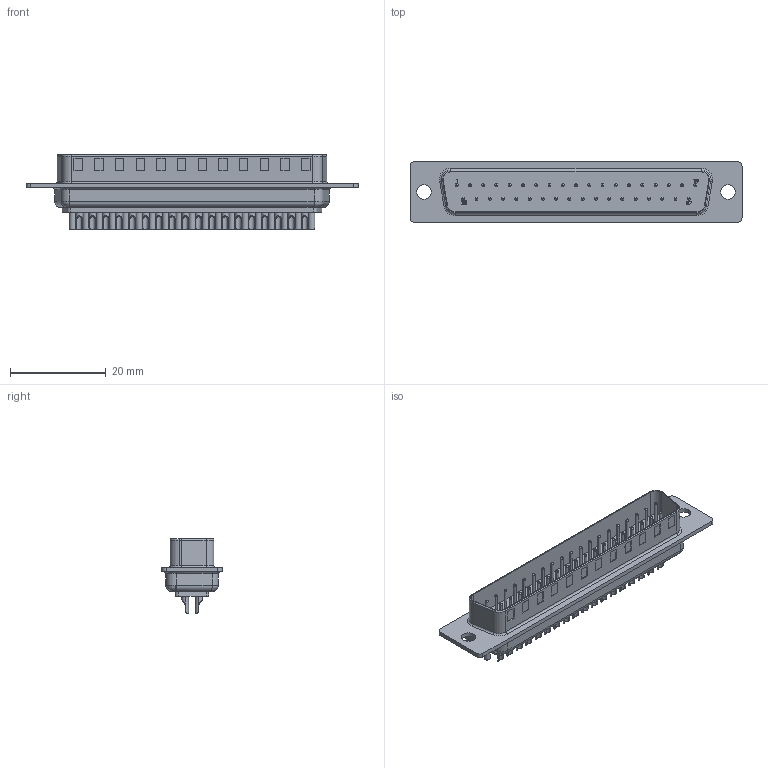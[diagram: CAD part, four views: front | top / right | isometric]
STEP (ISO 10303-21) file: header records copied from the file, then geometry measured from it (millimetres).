
FILE_DESCRIPTION(('FreeCAD Model'),'2;1');
FILE_NAME('C:/Users/Metaltex-99/Desktop/DBSM-37.stp', '2020-12-23T08:20:24',('Engenharia Metaltex'),('Metaltex'), 'Open CASCADE STEP processor 7.3','FreeCAD','Unknown');
FILE_SCHEMA(('AUTOMOTIVE_DESIGN { 1 0 10303 214 1 1 1 1 }'));
Products named in the file (1): DBSM-37
Bounding box: 69.3 x 12.6 x 15.52 mm (x, y, z)
Volume: 3937.2 mm3; surface area: 5306.8 mm2
Topology: 1 solids, 1 shells, 1084 faces, 2573 edges, 1630 vertices
Faces by surface type: plane 469, cylinder 447, revolution 79, bspline 74, torus 15
Entity records: 87216 total; most frequent: CARTESIAN_POINT 37088, DIRECTION 8691, ORIENTED_EDGE 5146, PCURVE 5146, DEFINITIONAL_REPRESENTATION 5146, LINE 4973, VECTOR 4973, EDGE_CURVE 2573
